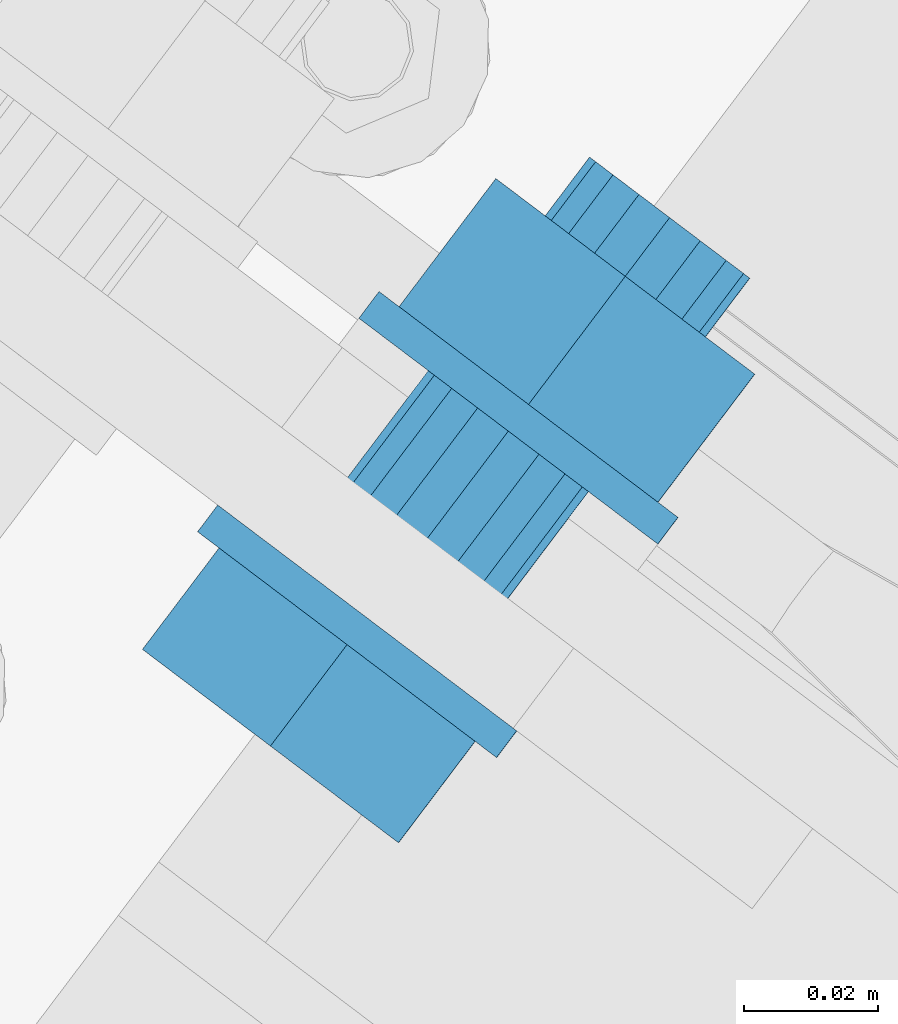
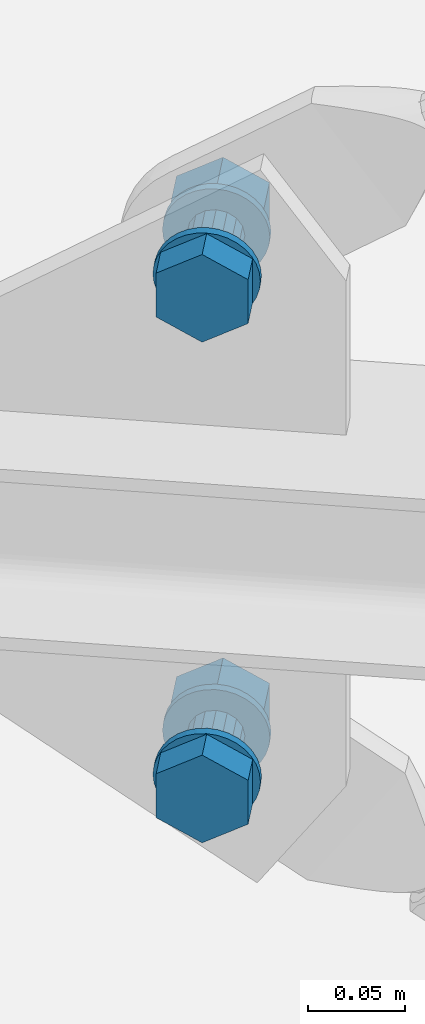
# One storey, part 159 of 476: 2 mechanical fasteners.
"""IFC2X3 building model written with IfcOpenShell, lengths in millimetres."""

from ifc_helpers import new_model, entity, si_unit, converted_unit, origin_with_axes, place, context, project, spatial, faceted_brep, element, save


model = new_model("IFC2X3")

# Units and contexts
model_context = context("Model", 3, precision=1e-09, world=origin_with_axes())
ifc_project = project(units=[si_unit("LENGTHUNIT", "METRE", prefix="MILLI"), si_unit("AREAUNIT", "SQUARE_METRE"), si_unit("VOLUMEUNIT", "CUBIC_METRE"), converted_unit("PLANEANGLEUNIT", "DEGREE", entity("IfcPlaneAngleMeasure", 0.01745329), si_unit("PLANEANGLEUNIT", "RADIAN"), dimensions=[0, 0, 0, 0, 0, 0, 0])], contexts=[model_context])

# Site, building, storey
site_placement = place(None, origin_with_axes())
site = spatial("IfcSite", under=ifc_project, at=site_placement, Name="mKR Teilneubau & Sanierung BA1 - Ostfildern", CompositionType="ELEMENT")
building_placement = place(site_placement, origin_with_axes())
building = spatial("IfcBuilding", under=site, at=building_placement, Name="Struktur 1", CompositionType="ELEMENT")
storey_placement = place(building_placement, origin_with_axes())
storey = spatial("IfcBuildingStorey", under=building, at=storey_placement, Name="Default Storey", CompositionType="ELEMENT", Elevation=0.0)

# Mechanical fasteners
mechanical_fastener_1_placement = place(None, origin_with_axes())
element("IfcMechanicalFastener", 1, at=mechanical_fastener_1_placement, inside=storey, ObjectType="-", NominalDiameter=30.0, NominalLength=80.0, context=model_context, shape_type="Brep", body=[
    faceted_brep([(5663.544039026, -4074.376674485, 2749.801075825), (5666.557711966, -4070.386965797, 2749.801075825), (5666.987014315, -4070.711244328, 2744.338546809), (5663.973341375, -4074.700953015, 2744.338546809), (5668.258423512, -4071.671618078, 2739.085939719), (5665.244750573, -4075.661326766, 2739.085939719), (5670.323080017, -4073.231180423, 2734.245109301), (5667.309407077, -4077.220889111, 2734.245109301), (5673.101640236, -4075.329998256, 2730.002085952), (5670.087967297, -4079.319706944, 2730.002085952), (5676.487325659, -4077.887415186, 2726.519926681), (5673.47365272, -4081.877123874, 2726.519926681), (5680.350026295, -4080.805151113, 2723.932448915), (5677.336353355, -4084.794859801, 2723.932448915), (5684.541300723, -4083.971079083, 2722.339087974), (5681.527627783, -4087.960787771, 2722.339087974), (5688.900080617, -4087.263534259, 2721.801075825), (5685.886407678, -4091.253242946, 2721.801075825), (5693.258860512, -4090.555989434, 2722.339087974), (5690.245187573, -4094.545698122, 2722.339087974), (5697.45013494, -4093.721917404, 2723.932448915), (5694.436462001, -4097.711626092, 2723.932448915), (5701.312835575, -4096.639653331, 2726.519926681), (5698.299162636, -4100.629362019, 2726.519926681), (5704.698520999, -4099.197070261, 2730.002085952), (5701.684848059, -4103.186778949, 2730.002085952), (5707.477081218, -4101.295888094, 2734.245109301), (5704.463408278, -4105.285596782, 2734.245109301), (5709.541737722, -4102.855450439, 2739.085939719), (5706.528064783, -4106.845159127, 2739.085939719), (5710.81314692, -4103.815824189, 2744.338546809), (5707.799473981, -4107.805532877, 2744.338546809), (5711.242449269, -4104.14010272, 2749.801075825), (5708.228776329, -4108.129811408, 2749.801075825), (5710.81314692, -4103.815824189, 2755.263604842), (5707.799473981, -4107.805532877, 2755.263604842), (5709.541737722, -4102.855450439, 2760.516211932), (5706.528064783, -4106.845159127, 2760.516211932), (5707.477081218, -4101.295888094, 2765.35704235), (5704.463408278, -4105.285596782, 2765.35704235), (5704.698520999, -4099.197070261, 2769.600065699), (5701.684848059, -4103.186778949, 2769.600065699), (5701.312835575, -4096.639653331, 2773.08222497), (5698.299162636, -4100.629362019, 2773.08222497), (5697.45013494, -4093.721917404, 2775.669702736), (5694.436462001, -4097.711626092, 2775.669702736), (5693.258860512, -4090.555989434, 2777.263063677), (5690.245187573, -4094.545698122, 2777.263063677), (5688.900080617, -4087.263534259, 2777.801075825), (5685.886407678, -4091.253242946, 2777.801075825), (5684.541300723, -4083.971079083, 2777.263063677), (5681.527627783, -4087.960787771, 2777.263063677), (5680.350026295, -4080.805151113, 2775.669702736), (5677.336353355, -4084.794859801, 2775.669702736), (5676.487325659, -4077.887415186, 2773.08222497), (5673.47365272, -4081.877123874, 2773.08222497), (5673.101640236, -4075.329998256, 2769.600065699), (5670.087967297, -4079.319706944, 2769.600065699), (5670.323080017, -4073.231180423, 2765.35704235), (5667.309407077, -4077.220889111, 2765.35704235), (5668.258423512, -4071.671618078, 2760.516211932), (5665.244750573, -4075.661326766, 2760.516211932), (5666.987014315, -4070.711244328, 2755.263604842), (5663.973341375, -4074.700953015, 2755.263604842)], [[[0, 1, 2, 3]], [[3, 2, 4, 5]], [[5, 4, 6, 7]], [[7, 6, 8, 9]], [[9, 8, 10, 11]], [[11, 10, 12, 13]], [[13, 12, 14, 15]], [[15, 14, 16, 17]], [[17, 16, 18, 19]], [[19, 18, 20, 21]], [[21, 20, 22, 23]], [[23, 22, 24, 25]], [[25, 24, 26, 27]], [[27, 26, 28, 29]], [[29, 28, 30, 31]], [[31, 30, 32, 33]], [[33, 32, 34, 35]], [[35, 34, 36, 37]], [[37, 36, 38, 39]], [[39, 38, 40, 41]], [[41, 40, 42, 43]], [[43, 42, 44, 45]], [[45, 44, 46, 47]], [[47, 46, 48, 49]], [[49, 48, 50, 51]], [[51, 50, 52, 53]], [[53, 52, 54, 55]], [[55, 54, 56, 57]], [[57, 56, 58, 59]], [[59, 58, 60, 61]], [[61, 60, 62, 63]], [[63, 62, 1, 0]], [[0, 3, 5, 7, 9, 11, 13, 15, 17, 19, 21, 23, 25, 27, 29, 31, 33, 35, 37, 39, 41, 43, 45, 47, 49, 51, 53, 55, 57, 59, 61, 63]], [[1, 62, 60, 58, 56, 54, 52, 50, 48, 46, 44, 42, 40, 38, 36, 34, 32, 30, 28, 26, 24, 22, 20, 18, 16, 14, 12, 10, 8, 6, 4, 2]]]),
    faceted_brep([(5705.017789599, -4105.704355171, 2735.958575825), (5693.565832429, -4120.865248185, 2735.958575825), (5674.434450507, -4106.41413596, 2722.116075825), (5685.886407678, -4091.253242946, 2722.116075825), (5655.303068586, -4091.963023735, 2735.958575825), (5666.755025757, -4076.802130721, 2735.958575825), (5655.303068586, -4091.963023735, 2763.643575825), (5666.755025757, -4076.802130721, 2763.643575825), (5674.434450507, -4106.41413596, 2777.486075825), (5685.886407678, -4091.253242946, 2777.486075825), (5693.565832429, -4120.865248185, 2763.643575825), (5705.017789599, -4105.704355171, 2763.643575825)], [[[0, 1, 2, 3]], [[3, 2, 4, 5]], [[5, 4, 6, 7]], [[7, 6, 8, 9]], [[9, 8, 10, 11]], [[11, 10, 1, 0]], [[4, 2, 1, 10, 8, 6]], [[0, 3, 5, 7, 9, 11]]]),
    faceted_brep([(5676.930954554, -4078.22251544, 2749.801075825), (5698.026665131, -4050.294554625, 2749.801075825), (5698.937760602, -4050.982761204, 2744.06082434), (5677.842050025, -4078.910722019, 2744.06082434), (5701.53234099, -4052.942607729, 2739.194474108), (5680.436630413, -4080.870568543, 2739.194474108), (5705.41540495, -4055.87572533, 2735.942882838), (5684.319694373, -4083.803686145, 2735.942882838), (5709.995791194, -4059.335573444, 2734.801075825), (5688.900080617, -4087.263534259, 2734.801075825), (5714.576177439, -4062.795421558, 2735.942882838), (5693.480466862, -4090.723382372, 2735.942882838), (5718.459241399, -4065.72853916, 2739.194474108), (5697.363530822, -4093.656499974, 2739.194474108), (5721.053821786, -4067.688385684, 2744.06082434), (5699.958111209, -4095.616346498, 2744.06082434), (5721.964917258, -4068.376592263, 2749.801075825), (5700.869206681, -4096.304553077, 2749.801075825), (5721.053821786, -4067.688385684, 2755.541327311), (5699.958111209, -4095.616346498, 2755.541327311), (5718.459241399, -4065.72853916, 2760.407677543), (5697.363530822, -4093.656499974, 2760.407677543), (5714.576177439, -4062.795421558, 2763.659268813), (5693.480466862, -4090.723382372, 2763.659268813), (5709.995791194, -4059.335573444, 2764.801075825), (5688.900080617, -4087.263534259, 2764.801075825), (5705.41540495, -4055.87572533, 2763.659268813), (5684.319694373, -4083.803686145, 2763.659268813), (5701.53234099, -4052.942607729, 2760.407677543), (5680.436630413, -4080.870568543, 2760.407677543), (5698.937760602, -4050.982761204, 2755.541327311), (5677.842050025, -4078.910722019, 2755.541327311)], [[[0, 1, 2, 3]], [[3, 2, 4, 5]], [[5, 4, 6, 7]], [[7, 6, 8, 9]], [[9, 8, 10, 11]], [[11, 10, 12, 13]], [[13, 12, 14, 15]], [[15, 14, 16, 17]], [[17, 16, 18, 19]], [[19, 18, 20, 21]], [[21, 20, 22, 23]], [[23, 22, 24, 25]], [[25, 24, 26, 27]], [[27, 26, 28, 29]], [[29, 28, 30, 31]], [[31, 30, 1, 0]], [[0, 3, 5, 7, 9, 11, 13, 15, 17, 19, 21, 23, 25, 27, 29, 31]], [[1, 30, 28, 26, 24, 22, 20, 18, 16, 14, 12, 10, 8, 6, 4, 2]]]),
    faceted_brep([(5687.653422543, -4042.459004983, 2749.801075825), (5690.667095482, -4038.469296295, 2749.801075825), (5691.096397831, -4038.793574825, 2744.338546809), (5688.082724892, -4042.783283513, 2744.338546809), (5692.367807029, -4039.753948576, 2739.085939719), (5689.354134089, -4043.743657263, 2739.085939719), (5694.432463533, -4041.313510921, 2734.245109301), (5691.418790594, -4045.303219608, 2734.245109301), (5697.211023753, -4043.412328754, 2730.002085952), (5694.197350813, -4047.402037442, 2730.002085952), (5700.596709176, -4045.969745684, 2726.519926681), (5697.583036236, -4049.959454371, 2726.519926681), (5704.459409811, -4048.887481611, 2723.932448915), (5701.445736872, -4052.877190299, 2723.932448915), (5708.650684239, -4052.053409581, 2722.339087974), (5705.637011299, -4056.043118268, 2722.339087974), (5713.009464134, -4055.345864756, 2721.801075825), (5709.995791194, -4059.335573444, 2721.801075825), (5717.368244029, -4058.638319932, 2722.339087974), (5714.354571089, -4062.62802862, 2722.339087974), (5721.559518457, -4061.804247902, 2723.932448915), (5718.545845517, -4065.79395659, 2723.932448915), (5725.422219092, -4064.721983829, 2726.519926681), (5722.408546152, -4068.711692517, 2726.519926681), (5728.807904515, -4067.279400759, 2730.002085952), (5725.794231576, -4071.269109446, 2730.002085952), (5731.586464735, -4069.378218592, 2734.245109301), (5728.572791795, -4073.36792728, 2734.245109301), (5733.651121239, -4070.937780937, 2739.085939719), (5730.637448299, -4074.927489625, 2739.085939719), (5734.922530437, -4071.898154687, 2744.338546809), (5731.908857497, -4075.887863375, 2744.338546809), (5735.351832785, -4072.222433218, 2749.801075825), (5732.338159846, -4076.212141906, 2749.801075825), (5734.922530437, -4071.898154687, 2755.263604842), (5731.908857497, -4075.887863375, 2755.263604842), (5733.651121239, -4070.937780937, 2760.516211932), (5730.637448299, -4074.927489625, 2760.516211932), (5731.586464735, -4069.378218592, 2765.35704235), (5728.572791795, -4073.36792728, 2765.35704235), (5728.807904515, -4067.279400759, 2769.600065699), (5725.794231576, -4071.269109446, 2769.600065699), (5725.422219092, -4064.721983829, 2773.08222497), (5722.408546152, -4068.711692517, 2773.08222497), (5721.559518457, -4061.804247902, 2775.669702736), (5718.545845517, -4065.79395659, 2775.669702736), (5717.368244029, -4058.638319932, 2777.263063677), (5714.354571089, -4062.62802862, 2777.263063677), (5713.009464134, -4055.345864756, 2777.801075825), (5709.995791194, -4059.335573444, 2777.801075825), (5708.650684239, -4052.053409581, 2777.263063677), (5705.637011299, -4056.043118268, 2777.263063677), (5704.459409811, -4048.887481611, 2775.669702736), (5701.445736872, -4052.877190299, 2775.669702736), (5700.596709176, -4045.969745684, 2773.08222497), (5697.583036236, -4049.959454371, 2773.08222497), (5697.211023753, -4043.412328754, 2769.600065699), (5694.197350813, -4047.402037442, 2769.600065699), (5694.432463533, -4041.313510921, 2765.35704235), (5691.418790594, -4045.303219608, 2765.35704235), (5692.367807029, -4039.753948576, 2760.516211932), (5689.354134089, -4043.743657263, 2760.516211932), (5691.096397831, -4038.793574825, 2755.263604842), (5688.082724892, -4042.783283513, 2755.263604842)], [[[0, 1, 2, 3]], [[3, 2, 4, 5]], [[5, 4, 6, 7]], [[7, 6, 8, 9]], [[9, 8, 10, 11]], [[11, 10, 12, 13]], [[13, 12, 14, 15]], [[15, 14, 16, 17]], [[17, 16, 18, 19]], [[19, 18, 20, 21]], [[21, 20, 22, 23]], [[23, 22, 24, 25]], [[25, 24, 26, 27]], [[27, 26, 28, 29]], [[29, 28, 30, 31]], [[31, 30, 32, 33]], [[33, 32, 34, 35]], [[35, 34, 36, 37]], [[37, 36, 38, 39]], [[39, 38, 40, 41]], [[41, 40, 42, 43]], [[43, 42, 44, 45]], [[45, 44, 46, 47]], [[47, 46, 48, 49]], [[49, 48, 50, 51]], [[51, 50, 52, 53]], [[53, 52, 54, 55]], [[55, 54, 56, 57]], [[57, 56, 58, 59]], [[59, 58, 60, 61]], [[61, 60, 62, 63]], [[63, 62, 1, 0]], [[0, 3, 5, 7, 9, 11, 13, 15, 17, 19, 21, 23, 25, 27, 29, 31, 33, 35, 37, 39, 41, 43, 45, 47, 49, 51, 53, 55, 57, 59, 61, 63]], [[1, 62, 60, 58, 56, 54, 52, 50, 48, 46, 44, 42, 40, 38, 36, 34, 32, 30, 28, 26, 24, 22, 20, 18, 16, 14, 12, 10, 8, 6, 4, 2]]]),
    faceted_brep([(5746.824153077, -4050.810800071, 2735.801075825), (5732.358522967, -4069.961401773, 2735.801075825), (5713.009464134, -4055.345864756, 2721.801075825), (5727.475094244, -4036.195263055, 2721.801075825), (5693.660405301, -4040.73032774, 2735.801075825), (5708.126035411, -4021.579726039, 2735.801075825), (5693.660405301, -4040.73032774, 2763.801075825), (5708.126035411, -4021.579726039, 2763.801075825), (5713.009464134, -4055.345864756, 2777.801075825), (5727.475094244, -4036.195263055, 2777.801075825), (5732.358522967, -4069.961401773, 2763.801075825), (5746.824153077, -4050.810800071, 2763.801075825)], [[[0, 1, 2, 3]], [[3, 2, 4, 5]], [[5, 4, 6, 7]], [[7, 6, 8, 9]], [[9, 8, 10, 11]], [[11, 10, 1, 0]], [[4, 2, 1, 10, 8, 6]], [[0, 3, 5, 7, 9, 11]]]),
    faceted_brep([(5715.505968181, -4027.154244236, 2749.801075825), (5722.136048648, -4018.376885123, 2749.801075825), (5723.047144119, -4019.065091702, 2744.06082434), (5716.417063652, -4027.842450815, 2744.06082434), (5725.641724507, -4021.024938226, 2739.194474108), (5719.01164404, -4029.802297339, 2739.194474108), (5729.524788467, -4023.958055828, 2735.942882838), (5722.894708, -4032.735414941, 2735.942882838), (5734.105174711, -4027.417903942, 2734.801075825), (5727.475094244, -4036.195263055, 2734.801075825), (5738.685560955, -4030.877752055, 2735.942882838), (5732.055480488, -4039.655111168, 2735.942882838), (5742.568624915, -4033.810869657, 2739.194474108), (5735.938544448, -4042.58822877, 2739.194474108), (5745.163205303, -4035.770716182, 2744.06082434), (5738.533124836, -4044.548075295, 2744.06082434), (5746.074300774, -4036.458922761, 2749.801075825), (5739.444220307, -4045.236281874, 2749.801075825), (5745.163205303, -4035.770716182, 2755.541327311), (5738.533124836, -4044.548075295, 2755.541327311), (5742.568624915, -4033.810869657, 2760.407677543), (5735.938544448, -4042.58822877, 2760.407677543), (5738.685560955, -4030.877752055, 2763.659268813), (5732.055480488, -4039.655111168, 2763.659268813), (5734.105174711, -4027.417903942, 2764.801075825), (5727.475094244, -4036.195263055, 2764.801075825), (5729.524788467, -4023.958055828, 2763.659268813), (5722.894708, -4032.735414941, 2763.659268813), (5725.641724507, -4021.024938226, 2760.407677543), (5719.01164404, -4029.802297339, 2760.407677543), (5723.047144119, -4019.065091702, 2755.541327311), (5716.417063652, -4027.842450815, 2755.541327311)], [[[0, 1, 2, 3]], [[3, 2, 4, 5]], [[5, 4, 6, 7]], [[7, 6, 8, 9]], [[9, 8, 10, 11]], [[11, 10, 12, 13]], [[13, 12, 14, 15]], [[15, 14, 16, 17]], [[17, 16, 18, 19]], [[19, 18, 20, 21]], [[21, 20, 22, 23]], [[23, 22, 24, 25]], [[25, 24, 26, 27]], [[27, 26, 28, 29]], [[29, 28, 30, 31]], [[31, 30, 1, 0]], [[0, 3, 5, 7, 9, 11, 13, 15, 17, 19, 21, 23, 25, 27, 29, 31]], [[1, 30, 28, 26, 24, 22, 20, 18, 16, 14, 12, 10, 8, 6, 4, 2]]]),
])
mechanical_fastener_2_placement = place(None, origin_with_axes())
element("IfcMechanicalFastener", 2, at=mechanical_fastener_2_placement, inside=storey, ObjectType="-", NominalDiameter=30.0, NominalLength=80.0, context=model_context, shape_type="Brep", body=[
    faceted_brep([(5663.518250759, -4074.357195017, 3065.832296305), (5666.531923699, -4070.367486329, 3065.832296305), (5666.961226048, -4070.69176486, 3060.369767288), (5663.947553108, -4074.681473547, 3060.369767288), (5668.232635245, -4071.65213861, 3055.117160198), (5665.218962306, -4075.641847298, 3055.117160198), (5670.29729175, -4073.211700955, 3050.27632978), (5667.28361881, -4077.201409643, 3050.27632978), (5673.075851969, -4075.310518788, 3046.033306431), (5670.062179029, -4079.300227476, 3046.033306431), (5676.461537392, -4077.867935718, 3042.55114716), (5673.447864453, -4081.857644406, 3042.55114716), (5680.324238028, -4080.785671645, 3039.963669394), (5677.310565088, -4084.775380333, 3039.963669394), (5684.515512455, -4083.951599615, 3038.370308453), (5681.501839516, -4087.941308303, 3038.370308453), (5688.87429235, -4087.244054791, 3037.832296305), (5685.860619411, -4091.233763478, 3037.832296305), (5693.233072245, -4090.536509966, 3038.370308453), (5690.219399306, -4094.526218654, 3038.370308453), (5697.424346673, -4093.702437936, 3039.963669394), (5694.410673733, -4097.692146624, 3039.963669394), (5701.287047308, -4096.620173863, 3042.55114716), (5698.273374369, -4100.609882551, 3042.55114716), (5704.672732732, -4099.177590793, 3046.033306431), (5701.659059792, -4103.167299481, 3046.033306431), (5707.451292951, -4101.276408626, 3050.27632978), (5704.437620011, -4105.266117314, 3050.27632978), (5709.515949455, -4102.835970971, 3055.117160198), (5706.502276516, -4106.825679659, 3055.117160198), (5710.787358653, -4103.796344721, 3060.369767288), (5707.773685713, -4107.786053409, 3060.369767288), (5711.216661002, -4104.120623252, 3065.832296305), (5708.202988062, -4108.11033194, 3065.832296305), (5710.787358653, -4103.796344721, 3071.294825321), (5707.773685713, -4107.786053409, 3071.294825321), (5709.515949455, -4102.835970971, 3076.547432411), (5706.502276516, -4106.825679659, 3076.547432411), (5707.451292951, -4101.276408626, 3081.388262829), (5704.437620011, -4105.266117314, 3081.388262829), (5704.672732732, -4099.177590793, 3085.631286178), (5701.659059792, -4103.167299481, 3085.631286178), (5701.287047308, -4096.620173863, 3089.113445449), (5698.273374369, -4100.609882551, 3089.113445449), (5697.424346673, -4093.702437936, 3091.700923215), (5694.410673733, -4097.692146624, 3091.700923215), (5693.233072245, -4090.536509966, 3093.294284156), (5690.219399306, -4094.526218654, 3093.294284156), (5688.87429235, -4087.244054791, 3093.832296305), (5685.860619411, -4091.233763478, 3093.832296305), (5684.515512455, -4083.951599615, 3093.294284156), (5681.501839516, -4087.941308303, 3093.294284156), (5680.324238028, -4080.785671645, 3091.700923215), (5677.310565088, -4084.775380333, 3091.700923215), (5676.461537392, -4077.867935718, 3089.113445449), (5673.447864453, -4081.857644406, 3089.113445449), (5673.075851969, -4075.310518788, 3085.631286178), (5670.062179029, -4079.300227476, 3085.631286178), (5670.29729175, -4073.211700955, 3081.388262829), (5667.28361881, -4077.201409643, 3081.388262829), (5668.232635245, -4071.65213861, 3076.547432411), (5665.218962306, -4075.641847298, 3076.547432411), (5666.961226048, -4070.69176486, 3071.294825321), (5663.947553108, -4074.681473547, 3071.294825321)], [[[0, 1, 2, 3]], [[3, 2, 4, 5]], [[5, 4, 6, 7]], [[7, 6, 8, 9]], [[9, 8, 10, 11]], [[11, 10, 12, 13]], [[13, 12, 14, 15]], [[15, 14, 16, 17]], [[17, 16, 18, 19]], [[19, 18, 20, 21]], [[21, 20, 22, 23]], [[23, 22, 24, 25]], [[25, 24, 26, 27]], [[27, 26, 28, 29]], [[29, 28, 30, 31]], [[31, 30, 32, 33]], [[33, 32, 34, 35]], [[35, 34, 36, 37]], [[37, 36, 38, 39]], [[39, 38, 40, 41]], [[41, 40, 42, 43]], [[43, 42, 44, 45]], [[45, 44, 46, 47]], [[47, 46, 48, 49]], [[49, 48, 50, 51]], [[51, 50, 52, 53]], [[53, 52, 54, 55]], [[55, 54, 56, 57]], [[57, 56, 58, 59]], [[59, 58, 60, 61]], [[61, 60, 62, 63]], [[63, 62, 1, 0]], [[0, 3, 5, 7, 9, 11, 13, 15, 17, 19, 21, 23, 25, 27, 29, 31, 33, 35, 37, 39, 41, 43, 45, 47, 49, 51, 53, 55, 57, 59, 61, 63]], [[1, 62, 60, 58, 56, 54, 52, 50, 48, 46, 44, 42, 40, 38, 36, 34, 32, 30, 28, 26, 24, 22, 20, 18, 16, 14, 12, 10, 8, 6, 4, 2]]]),
    faceted_brep([(5704.992001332, -4105.684875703, 3051.989796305), (5693.540044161, -4120.845768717, 3051.989796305), (5674.40866224, -4106.394656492, 3038.147296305), (5685.860619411, -4091.233763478, 3038.147296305), (5655.277280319, -4091.943544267, 3051.989796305), (5666.72923749, -4076.782651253, 3051.989796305), (5655.277280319, -4091.943544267, 3079.674796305), (5666.72923749, -4076.782651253, 3079.674796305), (5674.40866224, -4106.394656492, 3093.517296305), (5685.860619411, -4091.233763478, 3093.517296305), (5693.540044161, -4120.845768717, 3079.674796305), (5704.992001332, -4105.684875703, 3079.674796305)], [[[0, 1, 2, 3]], [[3, 2, 4, 5]], [[5, 4, 6, 7]], [[7, 6, 8, 9]], [[9, 8, 10, 11]], [[11, 10, 1, 0]], [[4, 2, 1, 10, 8, 6]], [[0, 3, 5, 7, 9, 11]]]),
    faceted_brep([(5676.905166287, -4078.203035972, 3065.832296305), (5698.000876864, -4050.275075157, 3065.832296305), (5698.911972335, -4050.963281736, 3060.092044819), (5677.816261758, -4078.891242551, 3060.092044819), (5701.506552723, -4052.923128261, 3055.225694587), (5680.410842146, -4080.851089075, 3055.225694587), (5705.389616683, -4055.856245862, 3051.974103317), (5684.293906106, -4083.784206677, 3051.974103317), (5709.970002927, -4059.316093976, 3050.832296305), (5688.87429235, -4087.244054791, 3050.832296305), (5714.550389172, -4062.77594209, 3051.974103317), (5693.454678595, -4090.703902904, 3051.974103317), (5718.433453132, -4065.709059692, 3055.225694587), (5697.337742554, -4093.637020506, 3055.225694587), (5721.028033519, -4067.668906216, 3060.092044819), (5699.932322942, -4095.59686703, 3060.092044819), (5721.939128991, -4068.357112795, 3065.832296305), (5700.843418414, -4096.285073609, 3065.832296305), (5721.028033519, -4067.668906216, 3071.57254779), (5699.932322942, -4095.59686703, 3071.57254779), (5718.433453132, -4065.709059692, 3076.438898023), (5697.337742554, -4093.637020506, 3076.438898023), (5714.550389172, -4062.77594209, 3079.690489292), (5693.454678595, -4090.703902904, 3079.690489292), (5709.970002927, -4059.316093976, 3080.832296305), (5688.87429235, -4087.244054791, 3080.832296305), (5705.389616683, -4055.856245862, 3079.690489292), (5684.293906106, -4083.784206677, 3079.690489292), (5701.506552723, -4052.923128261, 3076.438898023), (5680.410842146, -4080.851089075, 3076.438898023), (5698.911972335, -4050.963281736, 3071.57254779), (5677.816261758, -4078.891242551, 3071.57254779)], [[[0, 1, 2, 3]], [[3, 2, 4, 5]], [[5, 4, 6, 7]], [[7, 6, 8, 9]], [[9, 8, 10, 11]], [[11, 10, 12, 13]], [[13, 12, 14, 15]], [[15, 14, 16, 17]], [[17, 16, 18, 19]], [[19, 18, 20, 21]], [[21, 20, 22, 23]], [[23, 22, 24, 25]], [[25, 24, 26, 27]], [[27, 26, 28, 29]], [[29, 28, 30, 31]], [[31, 30, 1, 0]], [[0, 3, 5, 7, 9, 11, 13, 15, 17, 19, 21, 23, 25, 27, 29, 31]], [[1, 30, 28, 26, 24, 22, 20, 18, 16, 14, 12, 10, 8, 6, 4, 2]]]),
    faceted_brep([(5687.627634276, -4042.439525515, 3065.832296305), (5690.641307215, -4038.449816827, 3065.832296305), (5691.070609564, -4038.774095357, 3060.369767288), (5688.056936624, -4042.763804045, 3060.369767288), (5692.342018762, -4039.734469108, 3055.117160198), (5689.328345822, -4043.724177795, 3055.117160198), (5694.406675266, -4041.294031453, 3050.27632978), (5691.393002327, -4045.28374014, 3050.27632978), (5697.185235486, -4043.392849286, 3046.033306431), (5694.171562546, -4047.382557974, 3046.033306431), (5700.570920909, -4045.950266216, 3042.55114716), (5697.557247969, -4049.939974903, 3042.55114716), (5704.433621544, -4048.868002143, 3039.963669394), (5701.419948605, -4052.857710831, 3039.963669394), (5708.624895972, -4052.033930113, 3038.370308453), (5705.611223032, -4056.0236388, 3038.370308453), (5712.983675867, -4055.326385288, 3037.832296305), (5709.970002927, -4059.316093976, 3037.832296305), (5717.342455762, -4058.618840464, 3038.370308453), (5714.328782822, -4062.608549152, 3038.370308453), (5721.53373019, -4061.784768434, 3039.963669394), (5718.52005725, -4065.774477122, 3039.963669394), (5725.396430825, -4064.702504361, 3042.55114716), (5722.382757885, -4068.692213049, 3042.55114716), (5728.782116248, -4067.259921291, 3046.033306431), (5725.768443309, -4071.249629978, 3046.033306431), (5731.560676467, -4069.358739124, 3050.27632978), (5728.547003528, -4073.348447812, 3050.27632978), (5733.625332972, -4070.918301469, 3055.117160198), (5730.611660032, -4074.908010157, 3055.117160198), (5734.89674217, -4071.878675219, 3060.369767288), (5731.88306923, -4075.868383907, 3060.369767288), (5735.326044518, -4072.20295375, 3065.832296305), (5732.312371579, -4076.192662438, 3065.832296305), (5734.89674217, -4071.878675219, 3071.294825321), (5731.88306923, -4075.868383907, 3071.294825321), (5733.625332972, -4070.918301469, 3076.547432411), (5730.611660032, -4074.908010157, 3076.547432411), (5731.560676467, -4069.358739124, 3081.388262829), (5728.547003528, -4073.348447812, 3081.388262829), (5728.782116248, -4067.259921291, 3085.631286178), (5725.768443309, -4071.249629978, 3085.631286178), (5725.396430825, -4064.702504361, 3089.113445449), (5722.382757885, -4068.692213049, 3089.113445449), (5721.53373019, -4061.784768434, 3091.700923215), (5718.52005725, -4065.774477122, 3091.700923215), (5717.342455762, -4058.618840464, 3093.294284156), (5714.328782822, -4062.608549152, 3093.294284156), (5712.983675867, -4055.326385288, 3093.832296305), (5709.970002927, -4059.316093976, 3093.832296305), (5708.624895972, -4052.033930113, 3093.294284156), (5705.611223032, -4056.0236388, 3093.294284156), (5704.433621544, -4048.868002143, 3091.700923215), (5701.419948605, -4052.857710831, 3091.700923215), (5700.570920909, -4045.950266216, 3089.113445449), (5697.557247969, -4049.939974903, 3089.113445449), (5697.185235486, -4043.392849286, 3085.631286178), (5694.171562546, -4047.382557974, 3085.631286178), (5694.406675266, -4041.294031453, 3081.388262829), (5691.393002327, -4045.28374014, 3081.388262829), (5692.342018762, -4039.734469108, 3076.547432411), (5689.328345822, -4043.724177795, 3076.547432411), (5691.070609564, -4038.774095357, 3071.294825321), (5688.056936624, -4042.763804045, 3071.294825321)], [[[0, 1, 2, 3]], [[3, 2, 4, 5]], [[5, 4, 6, 7]], [[7, 6, 8, 9]], [[9, 8, 10, 11]], [[11, 10, 12, 13]], [[13, 12, 14, 15]], [[15, 14, 16, 17]], [[17, 16, 18, 19]], [[19, 18, 20, 21]], [[21, 20, 22, 23]], [[23, 22, 24, 25]], [[25, 24, 26, 27]], [[27, 26, 28, 29]], [[29, 28, 30, 31]], [[31, 30, 32, 33]], [[33, 32, 34, 35]], [[35, 34, 36, 37]], [[37, 36, 38, 39]], [[39, 38, 40, 41]], [[41, 40, 42, 43]], [[43, 42, 44, 45]], [[45, 44, 46, 47]], [[47, 46, 48, 49]], [[49, 48, 50, 51]], [[51, 50, 52, 53]], [[53, 52, 54, 55]], [[55, 54, 56, 57]], [[57, 56, 58, 59]], [[59, 58, 60, 61]], [[61, 60, 62, 63]], [[63, 62, 1, 0]], [[0, 3, 5, 7, 9, 11, 13, 15, 17, 19, 21, 23, 25, 27, 29, 31, 33, 35, 37, 39, 41, 43, 45, 47, 49, 51, 53, 55, 57, 59, 61, 63]], [[1, 62, 60, 58, 56, 54, 52, 50, 48, 46, 44, 42, 40, 38, 36, 34, 32, 30, 28, 26, 24, 22, 20, 18, 16, 14, 12, 10, 8, 6, 4, 2]]]),
    faceted_brep([(5746.79836481, -4050.791320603, 3051.832296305), (5732.3327347, -4069.941922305, 3051.832296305), (5712.983675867, -4055.326385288, 3037.832296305), (5727.449305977, -4036.175783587, 3037.832296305), (5693.634617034, -4040.710848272, 3051.832296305), (5708.100247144, -4021.560246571, 3051.832296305), (5693.634617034, -4040.710848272, 3079.832296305), (5708.100247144, -4021.560246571, 3079.832296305), (5712.983675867, -4055.326385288, 3093.832296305), (5727.449305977, -4036.175783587, 3093.832296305), (5732.3327347, -4069.941922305, 3079.832296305), (5746.79836481, -4050.791320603, 3079.832296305)], [[[0, 1, 2, 3]], [[3, 2, 4, 5]], [[5, 4, 6, 7]], [[7, 6, 8, 9]], [[9, 8, 10, 11]], [[11, 10, 1, 0]], [[4, 2, 1, 10, 8, 6]], [[0, 3, 5, 7, 9, 11]]]),
    faceted_brep([(5715.480179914, -4027.134764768, 3065.832296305), (5722.11026038, -4018.357405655, 3065.832296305), (5723.021355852, -4019.045612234, 3060.092044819), (5716.391275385, -4027.822971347, 3060.092044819), (5725.61593624, -4021.005458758, 3055.225694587), (5718.985855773, -4029.782817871, 3055.225694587), (5729.499000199, -4023.93857636, 3051.974103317), (5722.868919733, -4032.715935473, 3051.974103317), (5734.079386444, -4027.398424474, 3050.832296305), (5727.449305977, -4036.175783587, 3050.832296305), (5738.659772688, -4030.858272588, 3051.974103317), (5732.029692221, -4039.635631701, 3051.974103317), (5742.542836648, -4033.791390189, 3055.225694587), (5735.912756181, -4042.568749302, 3055.225694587), (5745.137417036, -4035.751236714, 3060.092044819), (5738.507336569, -4044.528595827, 3060.092044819), (5746.048512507, -4036.439443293, 3065.832296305), (5739.41843204, -4045.216802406, 3065.832296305), (5745.137417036, -4035.751236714, 3071.57254779), (5738.507336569, -4044.528595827, 3071.57254779), (5742.542836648, -4033.791390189, 3076.438898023), (5735.912756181, -4042.568749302, 3076.438898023), (5738.659772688, -4030.858272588, 3079.690489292), (5732.029692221, -4039.635631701, 3079.690489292), (5734.079386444, -4027.398424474, 3080.832296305), (5727.449305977, -4036.175783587, 3080.832296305), (5729.499000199, -4023.93857636, 3079.690489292), (5722.868919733, -4032.715935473, 3079.690489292), (5725.61593624, -4021.005458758, 3076.438898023), (5718.985855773, -4029.782817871, 3076.438898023), (5723.021355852, -4019.045612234, 3071.57254779), (5716.391275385, -4027.822971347, 3071.57254779)], [[[0, 1, 2, 3]], [[3, 2, 4, 5]], [[5, 4, 6, 7]], [[7, 6, 8, 9]], [[9, 8, 10, 11]], [[11, 10, 12, 13]], [[13, 12, 14, 15]], [[15, 14, 16, 17]], [[17, 16, 18, 19]], [[19, 18, 20, 21]], [[21, 20, 22, 23]], [[23, 22, 24, 25]], [[25, 24, 26, 27]], [[27, 26, 28, 29]], [[29, 28, 30, 31]], [[31, 30, 1, 0]], [[0, 3, 5, 7, 9, 11, 13, 15, 17, 19, 21, 23, 25, 27, 29, 31]], [[1, 30, 28, 26, 24, 22, 20, 18, 16, 14, 12, 10, 8, 6, 4, 2]]]),
])

save(model, "model.ifc")
